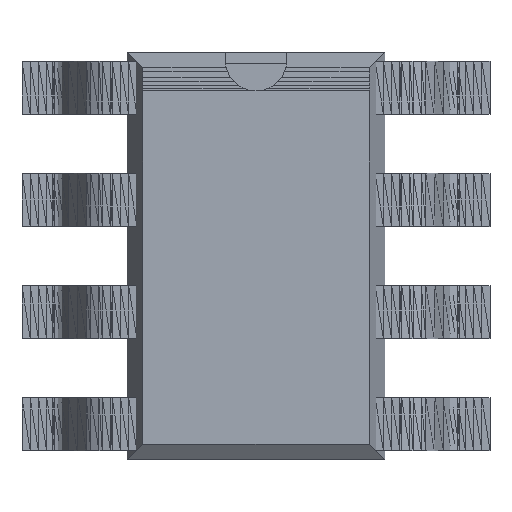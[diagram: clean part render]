
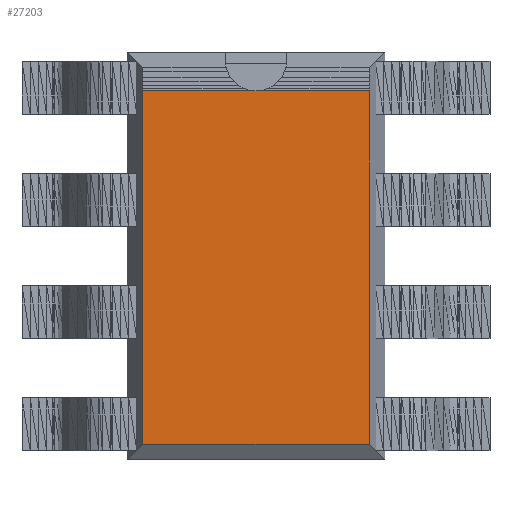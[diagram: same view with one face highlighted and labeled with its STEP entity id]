
A CAD part, top view. The second image highlights one B-rep face of the part: STEP entity #27203.
In plain terms, the highlighted planar face has unit normal (0, 0, 1).
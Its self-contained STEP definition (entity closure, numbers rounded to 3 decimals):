
#26278 = CARTESIAN_POINT('',(-1.283,-2.13,1.28));
#26279 = VERTEX_POINT('',#26278);
#26280 = CARTESIAN_POINT('',(-1.283,1.868,1.28));
#26281 = VERTEX_POINT('',#26280);
#26305 = DIRECTION('',(0.,1.,0.));
#26306 = VECTOR('',#26305,1.);
#26307 = LINE('',#26278,#26306);
#26308 = EDGE_CURVE('',#26279,#26281,#26307,.T.);
#26367 = CARTESIAN_POINT('',(1.283,1.868,1.28));
#26368 = VERTEX_POINT('',#26367);
#26369 = CARTESIAN_POINT('',(1.283,-2.13,1.28));
#26370 = VERTEX_POINT('',#26369);
#26412 = DIRECTION('',(0.,1.,0.));
#26413 = VECTOR('',#26412,1.);
#26414 = LINE('',#26369,#26413);
#26415 = EDGE_CURVE('',#26370,#26368,#26414,.T.);
#26431 = DIRECTION('',(1.,0.,0.));
#26432 = VECTOR('',#26431,1.);
#26433 = LINE('',#26278,#26432);
#26434 = EDGE_CURVE('',#26279,#26370,#26433,.T.);
#26689 = CARTESIAN_POINT('',(0.,1.868,1.28));
#26690 = VERTEX_POINT('',#26689);
#27160 = DIRECTION('',(1.,0.,0.));
#27161 = VECTOR('',#27160,1.);
#27162 = LINE('',#26689,#27161);
#27163 = EDGE_CURVE('',#26690,#26368,#27162,.T.);
#27176 = DIRECTION('',(1.,0.,0.));
#27177 = VECTOR('',#27176,1.);
#27178 = LINE('',#26280,#27177);
#27179 = EDGE_CURVE('',#26281,#26690,#27178,.T.);
#27191 = ORIENTED_EDGE('',*,*,#26308,.F.);
#27192 = ORIENTED_EDGE('',*,*,#26434,.T.);
#27193 = ORIENTED_EDGE('',*,*,#26415,.T.);
#27194 = ORIENTED_EDGE('',*,*,#27163,.F.);
#27195 = ORIENTED_EDGE('',*,*,#27179,.F.);
#27196 = CARTESIAN_POINT('',(-1.283,1.868,1.28));
#27197 = DIRECTION('',(0.,0.,1.));
#27198 = DIRECTION('',(0.,-1.,0.));
#27199 = AXIS2_PLACEMENT_3D('',#27196,#27197,#27198);
#27200 = PLANE('',#27199);
#27201 = EDGE_LOOP('',(#27191,#27192,#27193,#27194,#27195));
#27202 = FACE_OUTER_BOUND('',#27201,.T.);
#27203 = ADVANCED_FACE('',(#27202),#27200,.T.);
